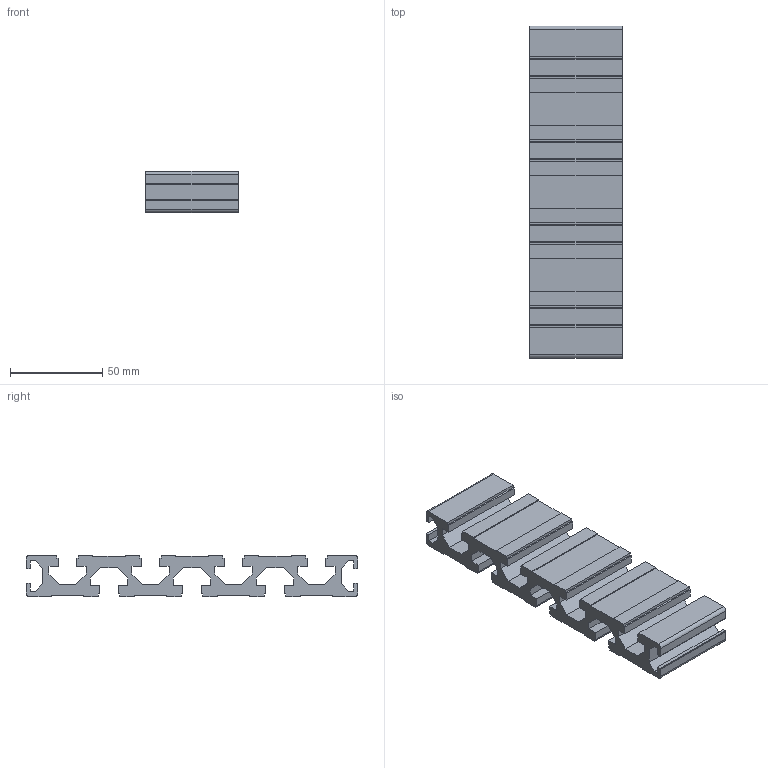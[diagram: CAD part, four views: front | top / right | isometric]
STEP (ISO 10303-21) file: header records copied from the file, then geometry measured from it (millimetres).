
FILE_DESCRIPTION(('no description'),'unknown implementation level');
FILE_NAME('3842990345_14020341.stp',' ',('Bosch Rexroth AG'),('CADClick - KiM GmbH - www.kimweb.de'),'unknown preprocess','ACIS','unknown authorization');
FILE_SCHEMA(('automotive_design'));
Length unit declared in the file: millimetre
Products named in the file (1): 1
Bounding box: 50 x 180 x 22.5 mm (x, y, z)
Volume: 108257 mm3; surface area: 43577.7 mm2
Topology: 1 solids, 1 shells, 164 faces, 486 edges, 324 vertices
Faces by surface type: plane 160, cylinder 4
Entity records: 10764 total; most frequent: STYLED_ITEM 975, PRESENTATION_STYLE_ASSIGNMENT 975, CARTESIAN_POINT 975, COLOUR_RGB 975, ORIENTED_EDGE 972, DIRECTION 824, EDGE_CURVE 486, CURVE_STYLE 486
